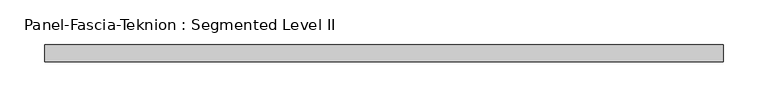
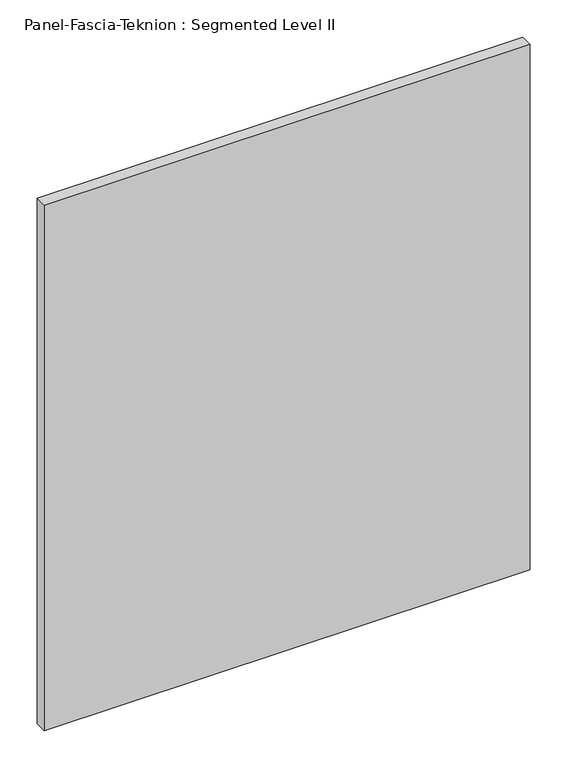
"""IFC4 building model written with IfcOpenShell, lengths in millimetres: proxy geometry, Panel-Fascia-Teknion : Segmented Level II."""

from ifc_helpers import new_model, si_unit, frame, origin, place, context, project, spatial, polyline, outline, extrude, source, transform, mapped, element, save


def panel_fascia_teknion_segmented_level_ii_3678de09(model_context):
    return source(origin(), model_context, "Body", "SweptSolid", [
        extrude(outline(polyline([(378.4203125, 9.525), (378.4203125, -9.525), (-378.4203125, -9.525), (-378.4203125, 9.525), (378.4203125, 9.525)])), frame((0.0, 0.0, 3.175), z_axis=(0.0, 0.0, 1.0), x_axis=(1.0, 0.0, 0.0)), (0.0, 0.0, 1.0), 865.632),
    ])


if __name__ == "__main__":
    model = new_model("IFC4")
    model_context = context("Model", 3, world=origin())
    ifc_project = project(units=[si_unit("LENGTHUNIT", "METRE", prefix="MILLI")], contexts=[model_context])
    site = spatial("IfcSite", under=ifc_project)
    building = spatial("IfcBuilding", under=site)
    placement = place(None, origin())
    panel_fascia_teknion_segmented_level_ii_shape = panel_fascia_teknion_segmented_level_ii_3678de09(model_context)
    element("IfcBuildingElementProxy", 1, Name="Panel-Fascia-Teknion : Segmented Level II", ObjectType="Panel-Fascia-Teknion : Segmented Level II", at=placement, inside=building, context=model_context, shape_type="MappedRepresentation", body=[
        mapped(panel_fascia_teknion_segmented_level_ii_shape, transform((0.0, 0.0, 0.0), x_axis=(1.0, 0.0, 0.0), y_axis=(0.0, 1.0, 0.0), z_axis=(0.0, 0.0, 1.0))),
    ])
    save(model, "model.ifc")
